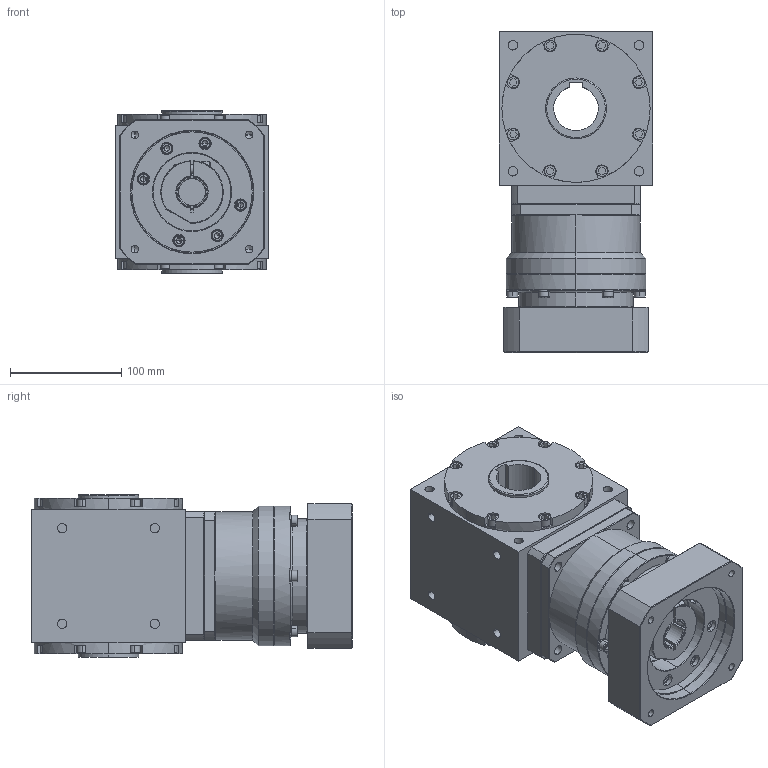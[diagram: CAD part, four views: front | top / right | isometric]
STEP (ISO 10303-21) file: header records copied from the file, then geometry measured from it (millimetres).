
FILE_DESCRIPTION (( 'STEP AP203' ), '1' );
FILE_NAME ('AAW135AS-L1-CR 24-110-145-M8.STEP', '2024-12-14T06:06:40', ( '' ), ( '' ), 'SwSTEP 2.0', 'SolidWorks 2021', '' );
FILE_SCHEMA (( 'CONFIG_CONTROL_DESIGN' ));
Length unit declared in the file: millimetre
Products named in the file (3): AAW135AS-L1-CR 24-110-145-M8; VRB-115-L1-S2-P1 24-110-145-M8; AAW135AS-CR
Assembly tree (2 placements, depth 2):
  AAW135AS-L1-CR 24-110-145-M8
    AAW135AS-CR
    VRB-115-L1-S2-P1 24-110-145-M8
Bounding box: 138 x 288 x 146 mm (x, y, z)
Volume: 4101504.5 mm3; surface area: 361578.9 mm2
Topology: 33 solids, 33 shells, 1292 faces, 3136 edges, 1980 vertices
Faces by surface type: plane 627, cylinder 451, cone 176, torus 36, bspline 2
Entity records: 39080 total; most frequent: CARTESIAN_POINT 7981, DIRECTION 6798, ORIENTED_EDGE 6152, EDGE_CURVE 3076, AXIS2_PLACEMENT_3D 2594, VERTEX_POINT 1978, LINE 1610, VECTOR 1610
